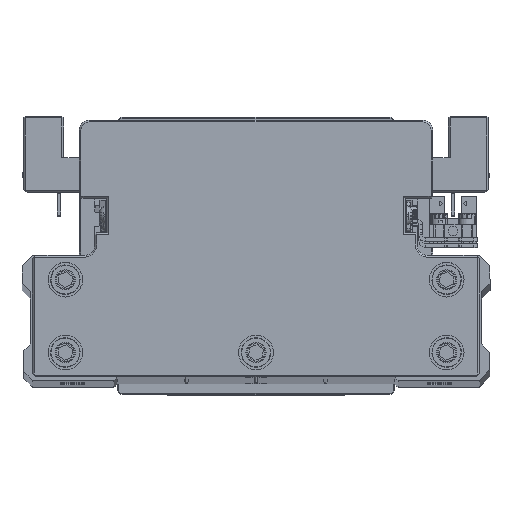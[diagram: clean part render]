
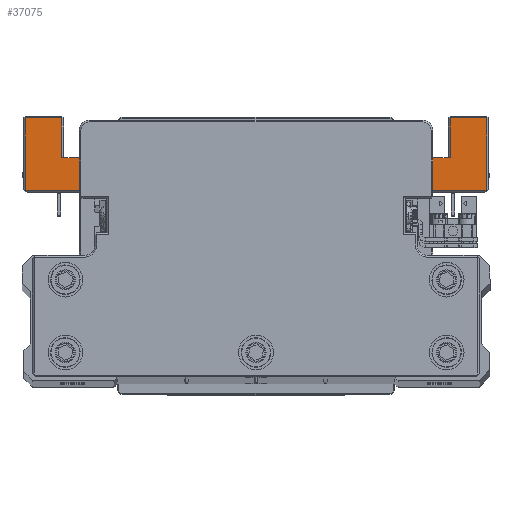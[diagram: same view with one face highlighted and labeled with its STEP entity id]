
A CAD part, top view. The second image highlights one B-rep face of the part: STEP entity #37075.
In plain terms, the highlighted planar face has unit normal (0, 0, 1) as drawn and (0, -1, 0) by its records, which use the part's own axes.
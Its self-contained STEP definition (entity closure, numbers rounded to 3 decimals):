
#126 = CARTESIAN_POINT ( 'NONE',  ( -66., -45., -43. ) ) ;
#348 = EDGE_CURVE ( 'NONE', #29048, #35775, #15202, .T. ) ;
#435 = CARTESIAN_POINT ( 'NONE',  ( 55.5, -45., -52.5 ) ) ;
#449 = CARTESIAN_POINT ( 'NONE',  ( -36.217, -45., -42.5 ) ) ;
#669 = EDGE_CURVE ( 'NONE', #13981, #4593, #26510, .T. ) ;
#714 = VERTEX_POINT ( 'NONE', #17419 ) ;
#801 = EDGE_CURVE ( 'NONE', #11464, #39162, #19486, .T. ) ;
#1178 = CARTESIAN_POINT ( 'NONE',  ( 56., -45., -52.5 ) ) ;
#1240 = LINE ( 'NONE', #13834, #37858 ) ;
#1392 = ORIENTED_EDGE ( 'NONE', *, *, #30092, .T. ) ;
#1501 = LINE ( 'NONE', #14087, #29199 ) ;
#1682 = AXIS2_PLACEMENT_3D ( 'NONE', #8968, #21554, #34712 ) ;
#2868 = ORIENTED_EDGE ( 'NONE', *, *, #33799, .T. ) ;
#3825 = DIRECTION ( 'NONE',  ( -1., 0., 0. ) ) ;
#4016 = DIRECTION ( 'NONE',  ( 0., 0., 1. ) ) ;
#4276 = CARTESIAN_POINT ( 'NONE',  ( 67., -45., -64. ) ) ;
#4296 = CIRCLE ( 'NONE', #27398, 1.5 ) ;
#4328 = EDGE_CURVE ( 'NONE', #27915, #714, #1501, .T. ) ;
#4593 = VERTEX_POINT ( 'NONE', #449 ) ;
#4606 = LINE ( 'NONE', #17199, #37122 ) ;
#5212 = CARTESIAN_POINT ( 'NONE',  ( 25.802, -45., -41.111 ) ) ;
#5561 = EDGE_CURVE ( 'NONE', #20441, #8357, #4606, .T. ) ;
#6610 = VERTEX_POINT ( 'NONE', #37664 ) ;
#6806 = DIRECTION ( 'NONE',  ( 0., 1., 0. ) ) ;
#7289 = DIRECTION ( 'NONE',  ( 0., 0., -1. ) ) ;
#8157 = CARTESIAN_POINT ( 'NONE',  ( 40.066, -45., -43. ) ) ;
#8165 = VECTOR ( 'NONE', #13038, 1000. ) ;
#8357 = VERTEX_POINT ( 'NONE', #18420 ) ;
#8968 = CARTESIAN_POINT ( 'NONE',  ( 40.066, -45., -41.5 ) ) ;
#9017 = LINE ( 'NONE', #21602, #40462 ) ;
#9842 = ORIENTED_EDGE ( 'NONE', *, *, #38391, .F. ) ;
#10025 = CARTESIAN_POINT ( 'NONE',  ( -46., -45., -52.5 ) ) ;
#10105 = DIRECTION ( 'NONE',  ( 1., 0., 0. ) ) ;
#10364 = ORIENTED_EDGE ( 'NONE', *, *, #4328, .T. ) ;
#10398 = PLANE ( 'NONE',  #35950 ) ;
#10502 = CARTESIAN_POINT ( 'NONE',  ( -66.5, -45., -64. ) ) ;
#10543 = CARTESIAN_POINT ( 'NONE',  ( 66.5, -45., -43. ) ) ;
#10821 = DIRECTION ( 'NONE',  ( -1., 0., 0. ) ) ;
#11272 = VECTOR ( 'NONE', #16892, 1000. ) ;
#11435 = VECTOR ( 'NONE', #3825, 1000. ) ;
#11464 = VERTEX_POINT ( 'NONE', #8157 ) ;
#12021 = CARTESIAN_POINT ( 'NONE',  ( -66.5, -45., -64.5 ) ) ;
#12580 = VERTEX_POINT ( 'NONE', #12954 ) ;
#12715 = DIRECTION ( 'NONE',  ( -1., 0., 0. ) ) ;
#12954 = CARTESIAN_POINT ( 'NONE',  ( 66.5, -45., -64. ) ) ;
#13038 = DIRECTION ( 'NONE',  ( -1., 0., 0. ) ) ;
#13461 = VERTEX_POINT ( 'NONE', #32038 ) ;
#13580 = VECTOR ( 'NONE', #38894, 1000. ) ;
#13698 = LINE ( 'NONE', #26289, #13580 ) ;
#13716 = EDGE_LOOP ( 'NONE', ( #25600, #1392, #27235, #20397, #36463, #25750, #40253, #37132, #9842, #28838, #22847, #14133, #10364, #29482, #33592, #2868, #36928, #40399 ) ) ;
#13834 = CARTESIAN_POINT ( 'NONE',  ( 46., -45., -52.5 ) ) ;
#13981 = VERTEX_POINT ( 'NONE', #36048 ) ;
#14087 = CARTESIAN_POINT ( 'NONE',  ( 56., -45., -64.5 ) ) ;
#14133 = ORIENTED_EDGE ( 'NONE', *, *, #34138, .F. ) ;
#15202 = LINE ( 'NONE', #27789, #28669 ) ;
#15985 = CARTESIAN_POINT ( 'NONE',  ( 39.868, -45., -42.987 ) ) ;
#16778 = CARTESIAN_POINT ( 'NONE',  ( -56., -45., -52.5 ) ) ;
#16892 = DIRECTION ( 'NONE',  ( 1., 0., 0. ) ) ;
#17199 = CARTESIAN_POINT ( 'NONE',  ( 46., -45., -54. ) ) ;
#17226 = CARTESIAN_POINT ( 'NONE',  ( -40.066, -45., -43. ) ) ;
#17419 = CARTESIAN_POINT ( 'NONE',  ( 56., -45., -64. ) ) ;
#17500 = VERTEX_POINT ( 'NONE', #10543 ) ;
#17809 = DIRECTION ( 'NONE',  ( -0.991, 0., 0.132 ) ) ;
#18420 = CARTESIAN_POINT ( 'NONE',  ( 46., -45., -54. ) ) ;
#18679 = EDGE_CURVE ( 'NONE', #31169, #33890, #4296, .T. ) ;
#19401 = DIRECTION ( 'NONE',  ( 0., 0., -1. ) ) ;
#19486 = CIRCLE ( 'NONE', #1682, 1.5 ) ;
#19518 = LINE ( 'NONE', #32112, #11435 ) ;
#19715 = LINE ( 'NONE', #32301, #37832 ) ;
#20177 = VECTOR ( 'NONE', #17809, 1000. ) ;
#20199 = VECTOR ( 'NONE', #12715, 1000. ) ;
#20397 = ORIENTED_EDGE ( 'NONE', *, *, #20789, .T. ) ;
#20441 = VERTEX_POINT ( 'NONE', #25570 ) ;
#20789 = EDGE_CURVE ( 'NONE', #33890, #35567, #28402, .T. ) ;
#21550 = CARTESIAN_POINT ( 'NONE',  ( -66.5, -45., -43. ) ) ;
#21554 = DIRECTION ( 'NONE',  ( 0., 1., 0. ) ) ;
#21602 = CARTESIAN_POINT ( 'NONE',  ( 66.5, -45., -43.5 ) ) ;
#22612 = DIRECTION ( 'NONE',  ( 0., 0., 1. ) ) ;
#22847 = ORIENTED_EDGE ( 'NONE', *, *, #34305, .F. ) ;
#22980 = CARTESIAN_POINT ( 'NONE',  ( 0., -45., 0. ) ) ;
#23516 = VERTEX_POINT ( 'NONE', #10502 ) ;
#24607 = DIRECTION ( 'NONE',  ( 0., 0., -1. ) ) ;
#25570 = CARTESIAN_POINT ( 'NONE',  ( -46., -45., -54. ) ) ;
#25600 = ORIENTED_EDGE ( 'NONE', *, *, #669, .T. ) ;
#25750 = ORIENTED_EDGE ( 'NONE', *, *, #31512, .T. ) ;
#25806 = LINE ( 'NONE', #38400, #40082 ) ;
#26289 = CARTESIAN_POINT ( 'NONE',  ( -39.868, -45., -42.987 ) ) ;
#26421 = DIRECTION ( 'NONE',  ( 0., 0., -1. ) ) ;
#26510 = LINE ( 'NONE', #39116, #27374 ) ;
#26676 = DIRECTION ( 'NONE',  ( 0., 0., -1. ) ) ;
#27070 = CARTESIAN_POINT ( 'NONE',  ( -39.868, -45., -42.987 ) ) ;
#27235 = ORIENTED_EDGE ( 'NONE', *, *, #18679, .T. ) ;
#27374 = VECTOR ( 'NONE', #10821, 1000. ) ;
#27398 = AXIS2_PLACEMENT_3D ( 'NONE', #35091, #6806, #19401 ) ;
#27789 = CARTESIAN_POINT ( 'NONE',  ( -55.5, -45., -52.5 ) ) ;
#27915 = VERTEX_POINT ( 'NONE', #1178 ) ;
#28402 = LINE ( 'NONE', #126, #20199 ) ;
#28669 = VECTOR ( 'NONE', #40400, 1000. ) ;
#28699 = LINE ( 'NONE', #435, #8165 ) ;
#28838 = ORIENTED_EDGE ( 'NONE', *, *, #5561, .T. ) ;
#29048 = VERTEX_POINT ( 'NONE', #37968 ) ;
#29199 = VECTOR ( 'NONE', #26676, 1000. ) ;
#29482 = ORIENTED_EDGE ( 'NONE', *, *, #40228, .T. ) ;
#29774 = DIRECTION ( 'NONE',  ( 1., 0., 0. ) ) ;
#30092 = EDGE_CURVE ( 'NONE', #4593, #31169, #13698, .T. ) ;
#30259 = EDGE_CURVE ( 'NONE', #39162, #13981, #33492, .T. ) ;
#31169 = VERTEX_POINT ( 'NONE', #27070 ) ;
#31512 = EDGE_CURVE ( 'NONE', #23516, #13461, #25806, .T. ) ;
#32038 = CARTESIAN_POINT ( 'NONE',  ( -56., -45., -64. ) ) ;
#32112 = CARTESIAN_POINT ( 'NONE',  ( 40.066, -45., -43. ) ) ;
#32301 = CARTESIAN_POINT ( 'NONE',  ( -56., -45., -52.5 ) ) ;
#32564 = LINE ( 'NONE', #4276, #11272 ) ;
#33492 = LINE ( 'NONE', #5212, #20177 ) ;
#33592 = ORIENTED_EDGE ( 'NONE', *, *, #33625, .T. ) ;
#33625 = EDGE_CURVE ( 'NONE', #12580, #17500, #9017, .T. ) ;
#33799 = EDGE_CURVE ( 'NONE', #17500, #11464, #19518, .T. ) ;
#33890 = VERTEX_POINT ( 'NONE', #17226 ) ;
#34076 = VECTOR ( 'NONE', #22612, 1000. ) ;
#34138 = EDGE_CURVE ( 'NONE', #27915, #6610, #28699, .T. ) ;
#34198 = DIRECTION ( 'NONE',  ( 0., 0., 1. ) ) ;
#34305 = EDGE_CURVE ( 'NONE', #6610, #8357, #1240, .T. ) ;
#34712 = DIRECTION ( 'NONE',  ( 0., 0., -1. ) ) ;
#34758 = VECTOR ( 'NONE', #24607, 1000. ) ;
#35091 = CARTESIAN_POINT ( 'NONE',  ( -40.066, -45., -41.5 ) ) ;
#35279 = EDGE_CURVE ( 'NONE', #13461, #35775, #19715, .T. ) ;
#35567 = VERTEX_POINT ( 'NONE', #21550 ) ;
#35583 = DIRECTION ( 'NONE',  ( 0., -1., 0. ) ) ;
#35775 = VERTEX_POINT ( 'NONE', #16778 ) ;
#35950 = AXIS2_PLACEMENT_3D ( 'NONE', #22980, #35583, #7289 ) ;
#36048 = CARTESIAN_POINT ( 'NONE',  ( 36.217, -45., -42.5 ) ) ;
#36463 = ORIENTED_EDGE ( 'NONE', *, *, #38659, .T. ) ;
#36928 = ORIENTED_EDGE ( 'NONE', *, *, #801, .T. ) ;
#37075 = ADVANCED_FACE ( 'NONE', ( #38689 ), #10398, .T. ) ;
#37122 = VECTOR ( 'NONE', #29774, 1000. ) ;
#37132 = ORIENTED_EDGE ( 'NONE', *, *, #348, .F. ) ;
#37664 = CARTESIAN_POINT ( 'NONE',  ( 46., -45., -52.5 ) ) ;
#37832 = VECTOR ( 'NONE', #4016, 1000. ) ;
#37858 = VECTOR ( 'NONE', #26421, 1000. ) ;
#37968 = CARTESIAN_POINT ( 'NONE',  ( -46., -45., -52.5 ) ) ;
#38329 = LINE ( 'NONE', #10025, #34076 ) ;
#38391 = EDGE_CURVE ( 'NONE', #20441, #29048, #38329, .T. ) ;
#38400 = CARTESIAN_POINT ( 'NONE',  ( -55.5, -45., -64. ) ) ;
#38659 = EDGE_CURVE ( 'NONE', #35567, #23516, #40323, .T. ) ;
#38689 = FACE_OUTER_BOUND ( 'NONE', #13716, .T. ) ;
#38894 = DIRECTION ( 'NONE',  ( -0.991, 0., -0.132 ) ) ;
#39116 = CARTESIAN_POINT ( 'NONE',  ( -77.786, -45., -42.5 ) ) ;
#39162 = VERTEX_POINT ( 'NONE', #15985 ) ;
#40082 = VECTOR ( 'NONE', #10105, 1000. ) ;
#40228 = EDGE_CURVE ( 'NONE', #714, #12580, #32564, .T. ) ;
#40253 = ORIENTED_EDGE ( 'NONE', *, *, #35279, .T. ) ;
#40323 = LINE ( 'NONE', #12021, #34758 ) ;
#40399 = ORIENTED_EDGE ( 'NONE', *, *, #30259, .T. ) ;
#40400 = DIRECTION ( 'NONE',  ( -1., 0., 0. ) ) ;
#40462 = VECTOR ( 'NONE', #34198, 1000. ) ;
